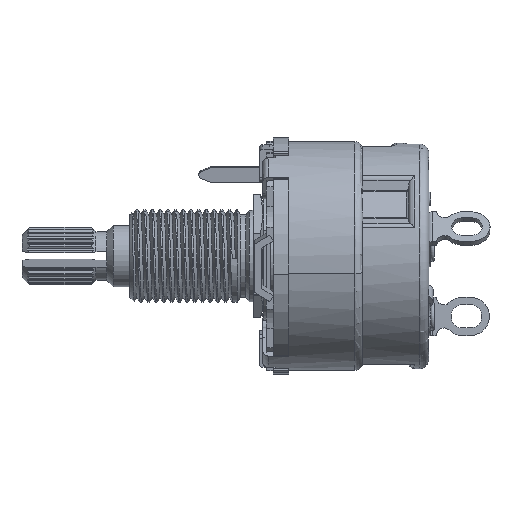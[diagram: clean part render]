
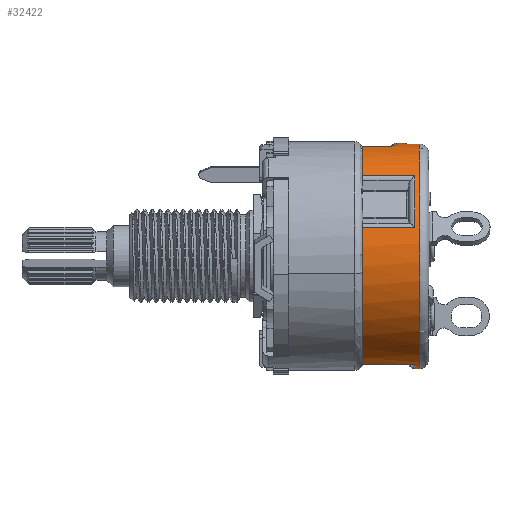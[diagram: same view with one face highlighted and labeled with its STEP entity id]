
A CAD part, left-side view. The second image highlights one B-rep face of the part: STEP entity #32422.
In plain terms, the highlighted cylindrical face has radius 11.608 mm (diameter 23.216 mm), a partial arc.
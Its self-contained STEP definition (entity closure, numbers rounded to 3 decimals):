
#218 = EDGE_CURVE ( 'NONE', #5202, #556, #21777, .T. ) ;
#382 = AXIS2_PLACEMENT_3D ( 'NONE', #36023, #29884, #8509 ) ;
#556 = VERTEX_POINT ( 'NONE', #8362 ) ;
#743 = FACE_OUTER_BOUND ( 'NONE', #8708, .T. ) ;
#925 = CARTESIAN_POINT ( 'NONE',  ( -1.321, 2.565, 11.532 ) ) ;
#1346 = DIRECTION ( 'NONE',  ( 0., -1., 0. ) ) ;
#2171 = LINE ( 'NONE', #14638, #38792 ) ;
#2197 = EDGE_CURVE ( 'NONE', #33869, #8853, #35107, .T. ) ;
#2281 = EDGE_CURVE ( 'NONE', #30241, #4737, #17870, .T. ) ;
#2401 = CARTESIAN_POINT ( 'NONE',  ( -1.527, 3.364, 11.508 ) ) ;
#2776 = CARTESIAN_POINT ( 'NONE',  ( -2.717, 4.134, 11.285 ) ) ;
#3063 = EDGE_CURVE ( 'NONE', #16844, #24280, #2171, .T. ) ;
#3360 = DIRECTION ( 'NONE',  ( 0., 0., 1. ) ) ;
#3569 = CARTESIAN_POINT ( 'NONE',  ( -8.164, 6.807, 8.251 ) ) ;
#4737 = VERTEX_POINT ( 'NONE', #36367 ) ;
#5202 = VERTEX_POINT ( 'NONE', #16483 ) ;
#5570 = CARTESIAN_POINT ( 'NONE',  ( -2.283, 3.583, 11.382 ) ) ;
#5904 = VERTEX_POINT ( 'NONE', #22727 ) ;
#5927 = ORIENTED_EDGE ( 'NONE', *, *, #3063, .T. ) ;
#6159 = CARTESIAN_POINT ( 'NONE',  ( -11.228, 1.448, 2.945 ) ) ;
#6852 = DIRECTION ( 'NONE',  ( 0., 0., 1. ) ) ;
#7187 = CIRCLE ( 'NONE', #19222, 11.608 ) ;
#7220 = CARTESIAN_POINT ( 'NONE',  ( -11.228, 0.457, 2.945 ) ) ;
#7428 = CIRCLE ( 'NONE', #8728, 11.608 ) ;
#7476 = EDGE_CURVE ( 'NONE', #27752, #22774, #35753, .T. ) ;
#7589 = AXIS2_PLACEMENT_3D ( 'NONE', #30413, #18347, #6852 ) ;
#7688 = CARTESIAN_POINT ( 'NONE',  ( -3.064, 0.457, -11.196 ) ) ;
#7881 = ORIENTED_EDGE ( 'NONE', *, *, #10752, .T. ) ;
#8056 = ORIENTED_EDGE ( 'NONE', *, *, #218, .F. ) ;
#8362 = CARTESIAN_POINT ( 'NONE',  ( -11.228, 6.807, 2.945 ) ) ;
#8509 = DIRECTION ( 'NONE',  ( 0., 0., 1. ) ) ;
#8575 = VERTEX_POINT ( 'NONE', #15775 ) ;
#8595 = AXIS2_PLACEMENT_3D ( 'NONE', #38344, #20717, #34942 ) ;
#8708 = EDGE_LOOP ( 'NONE', ( #31714, #7881, #35399, #34625, #26349, #26724, #19613, #20467, #8056, #9885, #14420, #5927, #38416, #23147, #28896 ) ) ;
#8728 = AXIS2_PLACEMENT_3D ( 'NONE', #14397, #14977, #26469 ) ;
#8742 = CARTESIAN_POINT ( 'NONE',  ( -2.584, 3.841, 11.317 ) ) ;
#8853 = VERTEX_POINT ( 'NONE', #21232 ) ;
#9616 = EDGE_CURVE ( 'NONE', #27752, #4737, #22149, .T. ) ;
#9687 = CARTESIAN_POINT ( 'NONE',  ( 0., 1.448, -11.608 ) ) ;
#9885 = ORIENTED_EDGE ( 'NONE', *, *, #36261, .T. ) ;
#10062 = CARTESIAN_POINT ( 'NONE',  ( 0., 0.457, 0. ) ) ;
#10400 = DIRECTION ( 'NONE',  ( 0., 1., 0. ) ) ;
#10752 = EDGE_CURVE ( 'NONE', #30241, #5904, #7428, .T. ) ;
#11683 = DIRECTION ( 'NONE',  ( 0., -1., 0. ) ) ;
#11854 = CARTESIAN_POINT ( 'NONE',  ( -2.717, 6.807, 11.285 ) ) ;
#11953 = CARTESIAN_POINT ( 'NONE',  ( -1.321, 0.965, 11.532 ) ) ;
#12819 = DIRECTION ( 'NONE',  ( 0., 0., -1. ) ) ;
#12883 = VECTOR ( 'NONE', #32899, 1000. ) ;
#13047 = LINE ( 'NONE', #7688, #36286 ) ;
#13393 = CYLINDRICAL_SURFACE ( 'NONE', #34844, 11.608 ) ;
#14311 = CARTESIAN_POINT ( 'NONE',  ( -8.164, 0.457, 8.251 ) ) ;
#14397 = CARTESIAN_POINT ( 'NONE',  ( 0., 3.353, 0. ) ) ;
#14420 = ORIENTED_EDGE ( 'NONE', *, *, #28989, .T. ) ;
#14638 = CARTESIAN_POINT ( 'NONE',  ( 0., 0.457, -11.608 ) ) ;
#14662 = CARTESIAN_POINT ( 'NONE',  ( -1.209, 3.353, 11.545 ) ) ;
#14977 = DIRECTION ( 'NONE',  ( 0., -1., 0. ) ) ;
#15376 = VECTOR ( 'NONE', #23288, 1000. ) ;
#15671 = DIRECTION ( 'NONE',  ( 0., -1., 0. ) ) ;
#15775 = CARTESIAN_POINT ( 'NONE',  ( -3.064, 1.448, -11.196 ) ) ;
#16483 = CARTESIAN_POINT ( 'NONE',  ( -3.064, 6.807, -11.196 ) ) ;
#16844 = VERTEX_POINT ( 'NONE', #9687 ) ;
#16861 = VECTOR ( 'NONE', #32658, 1000. ) ;
#17144 = CARTESIAN_POINT ( 'NONE',  ( -1.321, 2.184, 11.532 ) ) ;
#17870 = LINE ( 'NONE', #32723, #12883 ) ;
#18002 = LINE ( 'NONE', #38221, #16861 ) ;
#18347 = DIRECTION ( 'NONE',  ( 0., 1., 0. ) ) ;
#18468 = EDGE_CURVE ( 'NONE', #8853, #30679, #25650, .T. ) ;
#18501 = CARTESIAN_POINT ( 'NONE',  ( 0., 6.807, 0. ) ) ;
#18692 = EDGE_CURVE ( 'NONE', #35660, #38399, #18002, .T. ) ;
#19222 = AXIS2_PLACEMENT_3D ( 'NONE', #32695, #20824, #38634 ) ;
#19613 = ORIENTED_EDGE ( 'NONE', *, *, #18468, .T. ) ;
#20467 = ORIENTED_EDGE ( 'NONE', *, *, #31510, .T. ) ;
#20717 = DIRECTION ( 'NONE',  ( 0., -1., 0. ) ) ;
#20824 = DIRECTION ( 'NONE',  ( 0., 1., 0. ) ) ;
#21087 = DIRECTION ( 'NONE',  ( 0., 0., 1. ) ) ;
#21232 = CARTESIAN_POINT ( 'NONE',  ( -8.164, 1.448, 8.251 ) ) ;
#21777 = CIRCLE ( 'NONE', #38858, 11.608 ) ;
#22149 = CIRCLE ( 'NONE', #7589, 11.608 ) ;
#22362 = VECTOR ( 'NONE', #26378, 1000. ) ;
#22579 = CIRCLE ( 'NONE', #35866, 11.608 ) ;
#22727 = CARTESIAN_POINT ( 'NONE',  ( -1.209, 3.353, 11.545 ) ) ;
#22774 = VERTEX_POINT ( 'NONE', #11953 ) ;
#23147 = ORIENTED_EDGE ( 'NONE', *, *, #7476, .F. ) ;
#23288 = DIRECTION ( 'NONE',  ( 0., -1., 0. ) ) ;
#24175 = CARTESIAN_POINT ( 'NONE',  ( 0., 1.448, 0. ) ) ;
#24280 = VERTEX_POINT ( 'NONE', #31079 ) ;
#24359 = VECTOR ( 'NONE', #10400, 1000. ) ;
#25480 = DIRECTION ( 'NONE',  ( 0., -1., 0. ) ) ;
#25650 = CIRCLE ( 'NONE', #8595, 11.608 ) ;
#26349 = ORIENTED_EDGE ( 'NONE', *, *, #35984, .F. ) ;
#26378 = DIRECTION ( 'NONE',  ( 0., -1., 0. ) ) ;
#26469 = DIRECTION ( 'NONE',  ( 0., 0., 1. ) ) ;
#26532 = EDGE_CURVE ( 'NONE', #24280, #22774, #29511, .T. ) ;
#26724 = ORIENTED_EDGE ( 'NONE', *, *, #2197, .T. ) ;
#26728 = CARTESIAN_POINT ( 'NONE',  ( -2.422, 3.668, 11.353 ) ) ;
#27117 = CARTESIAN_POINT ( 'NONE',  ( -1.369, 3.353, 11.528 ) ) ;
#27752 = VERTEX_POINT ( 'NONE', #925 ) ;
#28213 = CARTESIAN_POINT ( 'NONE',  ( -2.717, 4.216, 11.285 ) ) ;
#28896 = ORIENTED_EDGE ( 'NONE', *, *, #9616, .T. ) ;
#28989 = EDGE_CURVE ( 'NONE', #8575, #16844, #22579, .T. ) ;
#29511 = CIRCLE ( 'NONE', #382, 11.608 ) ;
#29824 = CARTESIAN_POINT ( 'NONE',  ( 0., 3.353, 11.608 ) ) ;
#29884 = DIRECTION ( 'NONE',  ( 0., 1., 0. ) ) ;
#30111 = CARTESIAN_POINT ( 'NONE',  ( -1.837, 3.417, 11.463 ) ) ;
#30241 = VERTEX_POINT ( 'NONE', #29824 ) ;
#30369 = DIRECTION ( 'NONE',  ( 0., 1., 0. ) ) ;
#30413 = CARTESIAN_POINT ( 'NONE',  ( 0., 2.565, 0. ) ) ;
#30679 = VERTEX_POINT ( 'NONE', #6159 ) ;
#31079 = CARTESIAN_POINT ( 'NONE',  ( 0., 0.965, -11.608 ) ) ;
#31510 = EDGE_CURVE ( 'NONE', #30679, #556, #37526, .T. ) ;
#31714 = ORIENTED_EDGE ( 'NONE', *, *, #2281, .F. ) ;
#32422 = ADVANCED_FACE ( 'NONE', ( #743 ), #13393, .T. ) ;
#32658 = DIRECTION ( 'NONE',  ( 0., 1., 0. ) ) ;
#32695 = CARTESIAN_POINT ( 'NONE',  ( 0., 6.807, 0. ) ) ;
#32723 = CARTESIAN_POINT ( 'NONE',  ( 0., 0.457, 11.608 ) ) ;
#32899 = DIRECTION ( 'NONE',  ( 0., -1., 0. ) ) ;
#33869 = VERTEX_POINT ( 'NONE', #3569 ) ;
#34625 = ORIENTED_EDGE ( 'NONE', *, *, #18692, .T. ) ;
#34844 = AXIS2_PLACEMENT_3D ( 'NONE', #10062, #25480, #12819 ) ;
#34942 = DIRECTION ( 'NONE',  ( 0., 0., 1. ) ) ;
#35107 = LINE ( 'NONE', #14311, #22362 ) ;
#35399 = ORIENTED_EDGE ( 'NONE', *, *, #37890, .T. ) ;
#35430 = B_SPLINE_CURVE_WITH_KNOTS ( 'NONE', 3,
 ( #14662, #27117, #2401, #30111, #38637, #5570, #26728, #8742, #35662, #39035, #2776, #38832 ),
 .UNSPECIFIED., .F., .F.,
 ( 4, 2, 2, 2, 2, 4 ),
 ( 0., 0., 0.001, 0.001, 0.002, 0.002 ),
 .UNSPECIFIED. ) ;
#35660 = VERTEX_POINT ( 'NONE', #28213 ) ;
#35662 = CARTESIAN_POINT ( 'NONE',  ( -2.632, 3.907, 11.306 ) ) ;
#35753 = LINE ( 'NONE', #17144, #15376 ) ;
#35866 = AXIS2_PLACEMENT_3D ( 'NONE', #24175, #15671, #3360 ) ;
#35984 = EDGE_CURVE ( 'NONE', #33869, #38399, #7187, .T. ) ;
#36023 = CARTESIAN_POINT ( 'NONE',  ( 0., 0.965, 0. ) ) ;
#36261 = EDGE_CURVE ( 'NONE', #5202, #8575, #13047, .T. ) ;
#36286 = VECTOR ( 'NONE', #1346, 1000. ) ;
#36367 = CARTESIAN_POINT ( 'NONE',  ( 0., 2.565, 11.608 ) ) ;
#37526 = LINE ( 'NONE', #7220, #24359 ) ;
#37890 = EDGE_CURVE ( 'NONE', #5904, #35660, #35430, .T. ) ;
#38221 = CARTESIAN_POINT ( 'NONE',  ( -2.717, 0.457, 11.285 ) ) ;
#38344 = CARTESIAN_POINT ( 'NONE',  ( 0., 1.448, 0. ) ) ;
#38399 = VERTEX_POINT ( 'NONE', #11854 ) ;
#38416 = ORIENTED_EDGE ( 'NONE', *, *, #26532, .T. ) ;
#38634 = DIRECTION ( 'NONE',  ( 0., 0., 1. ) ) ;
#38637 = CARTESIAN_POINT ( 'NONE',  ( -1.99, 3.457, 11.437 ) ) ;
#38792 = VECTOR ( 'NONE', #11683, 1000. ) ;
#38832 = CARTESIAN_POINT ( 'NONE',  ( -2.717, 4.216, 11.285 ) ) ;
#38858 = AXIS2_PLACEMENT_3D ( 'NONE', #18501, #30369, #21087 ) ;
#39035 = CARTESIAN_POINT ( 'NONE',  ( -2.698, 4.054, 11.29 ) ) ;
